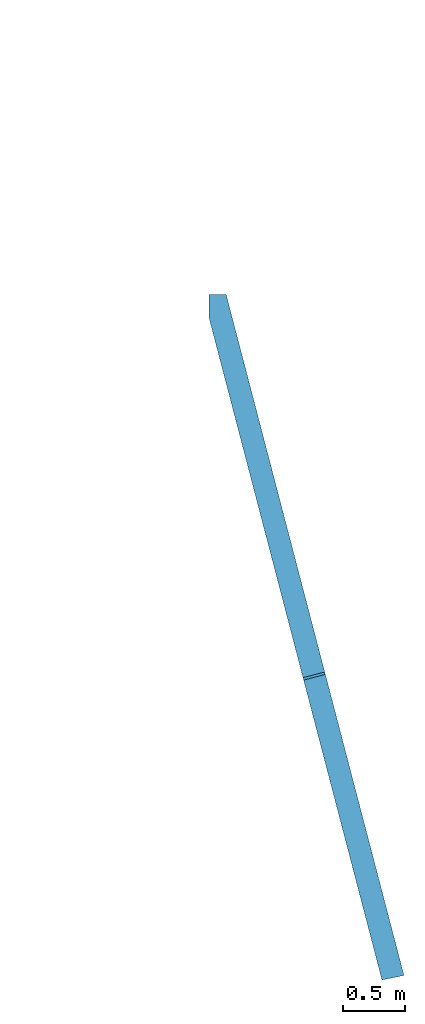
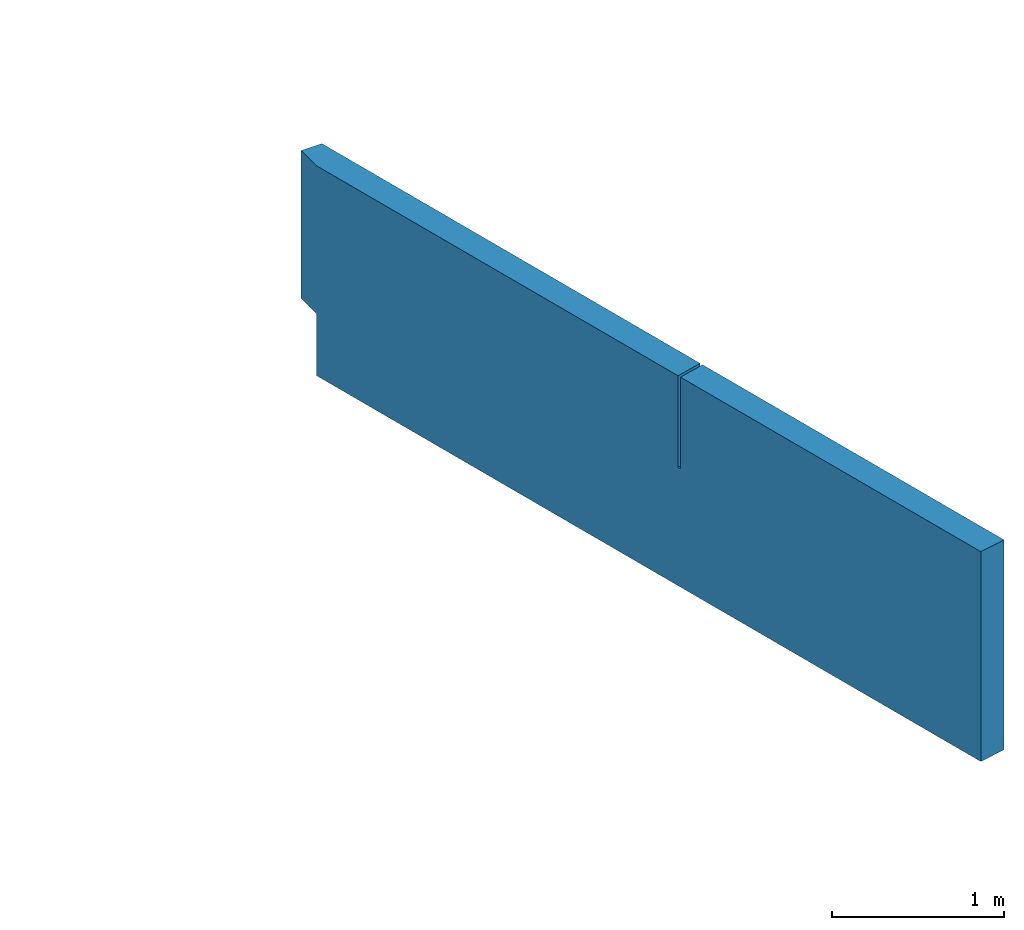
# One storey, part 2 of 2: 1 beam.
"""IFC2X3 building model written with IfcOpenShell, lengths in centimetres."""

from ifc_helpers import new_model, entity, si_unit, converted_unit, derived_unit, direction, frame, origin, place, context, subcontext, project, spatial, faceted_brep, material, type_object, element, save


model = new_model("IFC2X3")

# Units and contexts
model_context = context("Model", 3, precision=0.001, world=origin(), true_north=direction((6.12303176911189e-17, 1.0)))
body_context = subcontext(model_context, "Body", "Model", "MODEL_VIEW")
ifc_project = project(units=[si_unit("LENGTHUNIT", "METRE", prefix="CENTI"), si_unit("AREAUNIT", "SQUARE_METRE"), si_unit("VOLUMEUNIT", "CUBIC_METRE"), converted_unit("PLANEANGLEUNIT", "DEGREE", entity("IfcRatioMeasure", 0.0174532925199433), si_unit("PLANEANGLEUNIT", "RADIAN"), dimensions=[0, 0, 0, 0, 0, 0, 0]), si_unit("MASSUNIT", "GRAM", prefix="KILO"), derived_unit("MASSDENSITYUNIT", [(si_unit("MASSUNIT", "GRAM", prefix="KILO"), 1), (si_unit("LENGTHUNIT", "METRE"), -3)]), si_unit("TIMEUNIT", "SECOND"), si_unit("FREQUENCYUNIT", "HERTZ"), si_unit("THERMODYNAMICTEMPERATUREUNIT", "DEGREE_CELSIUS"), derived_unit("THERMALTRANSMITTANCEUNIT", [(si_unit("MASSUNIT", "GRAM", prefix="KILO"), 1), (si_unit("THERMODYNAMICTEMPERATUREUNIT", "KELVIN"), -1), (si_unit("TIMEUNIT", "SECOND"), -3)]), derived_unit("VOLUMETRICFLOWRATEUNIT", [(si_unit("LENGTHUNIT", "METRE"), 3), (si_unit("TIMEUNIT", "SECOND"), -1)]), si_unit("ELECTRICCURRENTUNIT", "AMPERE"), si_unit("ELECTRICVOLTAGEUNIT", "VOLT"), si_unit("POWERUNIT", "WATT"), si_unit("FORCEUNIT", "NEWTON"), si_unit("ILLUMINANCEUNIT", "LUX"), si_unit("LUMINOUSFLUXUNIT", "LUMEN"), si_unit("LUMINOUSINTENSITYUNIT", "CANDELA"), derived_unit("USERDEFINED", [(si_unit("MASSUNIT", "GRAM", prefix="KILO"), -1), (si_unit("LENGTHUNIT", "METRE"), -2), (si_unit("TIMEUNIT", "SECOND"), 3), (si_unit("LUMINOUSFLUXUNIT", "LUMEN"), 1)]), derived_unit("LINEARVELOCITYUNIT", [(si_unit("LENGTHUNIT", "METRE"), 1), (si_unit("TIMEUNIT", "SECOND"), -1)]), si_unit("PRESSUREUNIT", "PASCAL"), derived_unit("USERDEFINED", [(si_unit("LENGTHUNIT", "METRE"), -2), (si_unit("MASSUNIT", "GRAM", prefix="KILO"), 1), (si_unit("TIMEUNIT", "SECOND"), -2)])], contexts=[model_context])

# Site, building, storey
site_placement = place(None, origin())
site = spatial("IfcSite", under=ifc_project, at=site_placement, Name="Default", CompositionType="ELEMENT")
building_placement = place(site_placement, origin())
building = spatial("IfcBuilding", under=site, at=building_placement, Name="CAGE 03", CompositionType="ELEMENT")
storey_placement = place(building_placement, frame((0.0, 0.0, 1795.0)))
storey = spatial("IfcBuildingStorey", under=building, at=storey_placement, Name="Acrotère", CompositionType="ELEMENT", Elevation=1795.0)

# Beam
ifc_material = material(Name="Béton, C25/30")
beam_type = type_object("IfcBeamType", Name="BBGO-Poutre rect:18x149ht", PredefinedType="BEAM")
beam_placement = place(storey_placement, frame((10497.0243325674, 3264.76875053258, -149.0), z_axis=(0.0, 0.0, 1.0), x_axis=(0.252679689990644, -0.967549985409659, 0.0)))
element("IfcBeam", 1, at=beam_placement, inside=storey, type_object=beam_type, material=ifc_material, Name="BBGO-Poutre rect:18x149ht", ObjectType="BBGO-Poutre rect:18x149ht", context=body_context, shape_type="Brep", body=[
    faceted_brep([(-514.632015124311, 134.398284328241, 0.0), (35.0986691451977, 134.398284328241, 0.0), (35.0986691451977, 134.398284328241, 44.0), (35.0986691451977, 134.398284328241, 149.0), (-213.478362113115, 134.39828432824, 149.0), (-213.478362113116, 134.39828432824, 84.0), (-215.478362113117, 134.398284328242, 84.0), (-215.478362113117, 134.39828432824, 149.0), (-514.632015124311, 134.398284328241, 149.0), (-514.632015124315, 134.39828432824, 44.0), (-509.931240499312, 152.398284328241, 0.0), (36.0389606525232, 152.398284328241, 0.0), (-509.931240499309, 152.39828432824, 24.0), (-528.534930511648, 152.398284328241, 24.0), (-528.534930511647, 152.39828432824, 44.0), (-528.534930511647, 152.39828432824, 149.0), (-215.47836211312, 152.398284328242, 149.0), (-215.478362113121, 152.398284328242, 84.0), (-213.47836211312, 152.398284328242, 84.0), (-213.47836211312, 152.398284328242, 149.0), (36.0389606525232, 152.398284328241, 149.0), (36.0389606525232, 152.398284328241, 44.0), (36.0389606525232, 152.398284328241, 24.0), (-512.018931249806, 144.404190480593, 44.0), (-512.018931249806, 144.404190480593, 24.0), (-529.43483098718, 148.952424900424, 44.0), (-529.43483098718, 148.952424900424, 24.0), (-532.047914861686, 138.946518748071, 44.0), (-532.047914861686, 138.946518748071, 149.0)], [[[0, 1, 2, 3, 4, 5, 6, 7, 8, 9]], [[1, 0, 10, 11]], [[10, 12, 13, 14, 15, 16, 17, 18, 19, 20, 21, 22, 11]], [[3, 20, 19, 4]], [[9, 23, 24, 12, 10, 0]], [[23, 25, 26, 24]], [[25, 23, 9, 27]], [[12, 24, 26, 13]], [[1, 11, 22, 21, 20, 3, 2]], [[14, 13, 26, 25, 27, 28, 15]], [[9, 8, 28, 27]], [[6, 17, 16, 7]], [[17, 6, 5, 18]], [[18, 5, 4, 19]], [[15, 28, 8, 7, 16]]]),
])

save(model, "model.ifc")
